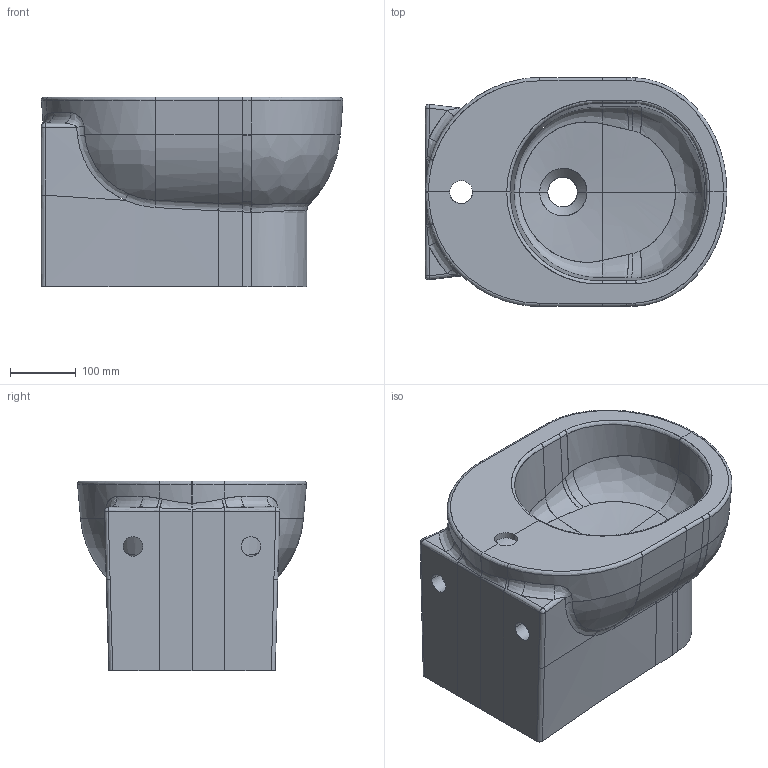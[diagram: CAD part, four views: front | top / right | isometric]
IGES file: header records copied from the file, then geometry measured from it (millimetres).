
Start section: START RECORD GO HERE.
Global section: file name: 5210_BIDET SOSP M2 46.igs; native system: DASSAULT SYSTEMES CATIA V5 R19 - www.3ds.com; preprocessor: CATIA Version 5 Release 19 SP 5 ; author: gioge; organization: LAPTOP-G94B6G74; date: 20200630.115601; units: millimetre
Bounding box: 460.72 x 349.33 x 290 mm (x, y, z)
Surface area: 618139.9 mm2 (no closed solid volume)
Topology: 0 solids, 0 shells, 140 faces, 663 edges, 662 vertices
Faces by surface type: bspline 108, revolution 20, plane 12
